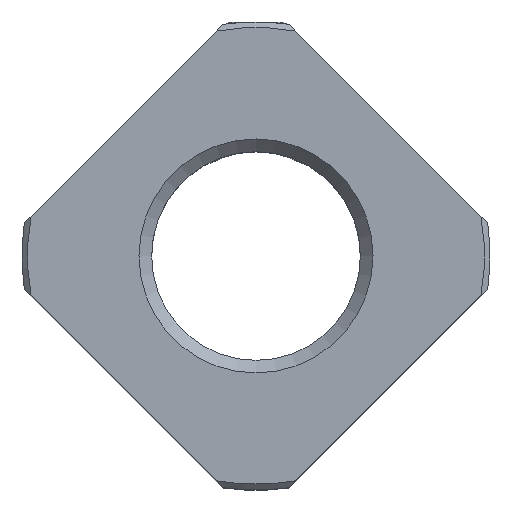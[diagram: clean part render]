
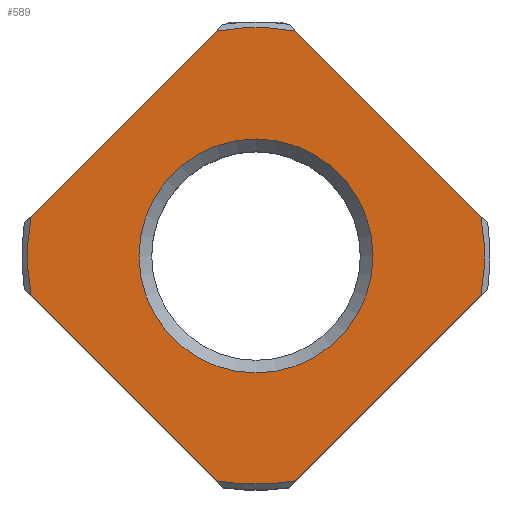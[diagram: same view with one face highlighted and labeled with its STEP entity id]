
A CAD part, top view. The second image highlights one B-rep face of the part: STEP entity #589.
In plain terms, the highlighted planar face has unit normal (0, 0, 1).
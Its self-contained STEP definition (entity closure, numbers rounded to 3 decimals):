
#32=PLANE('',#647);
#52=LINE('',#927,#88);
#53=LINE('',#931,#89);
#54=LINE('',#935,#90);
#55=LINE('',#939,#91);
#88=VECTOR('',#735,1000.);
#89=VECTOR('',#738,1000.);
#90=VECTOR('',#741,1000.);
#91=VECTOR('',#744,1000.);
#159=ORIENTED_EDGE('',*,*,#322,.F.);
#160=ORIENTED_EDGE('',*,*,#323,.T.);
#161=ORIENTED_EDGE('',*,*,#324,.F.);
#162=ORIENTED_EDGE('',*,*,#325,.T.);
#163=ORIENTED_EDGE('',*,*,#326,.F.);
#164=ORIENTED_EDGE('',*,*,#327,.T.);
#165=ORIENTED_EDGE('',*,*,#328,.F.);
#166=ORIENTED_EDGE('',*,*,#329,.T.);
#167=ORIENTED_EDGE('',*,*,#330,.T.);
#322=EDGE_CURVE('',#403,#404,#455,.T.);
#323=EDGE_CURVE('',#403,#405,#52,.T.);
#324=EDGE_CURVE('',#406,#405,#456,.T.);
#325=EDGE_CURVE('',#406,#407,#53,.T.);
#326=EDGE_CURVE('',#408,#407,#457,.T.);
#327=EDGE_CURVE('',#408,#409,#54,.T.);
#328=EDGE_CURVE('',#410,#409,#458,.T.);
#329=EDGE_CURVE('',#410,#404,#55,.T.);
#330=EDGE_CURVE('',#411,#411,#459,.T.);
#403=VERTEX_POINT('',#925);
#404=VERTEX_POINT('',#926);
#405=VERTEX_POINT('',#928);
#406=VERTEX_POINT('',#930);
#407=VERTEX_POINT('',#932);
#408=VERTEX_POINT('',#934);
#409=VERTEX_POINT('',#936);
#410=VERTEX_POINT('',#938);
#411=VERTEX_POINT('',#941);
#455=CIRCLE('',#648,9.76);
#456=CIRCLE('',#649,9.76);
#457=CIRCLE('',#650,9.76);
#458=CIRCLE('',#651,9.76);
#459=CIRCLE('',#652,5.);
#484=EDGE_LOOP('',(#159,#160,#161,#162,#163,#164,#165,#166));
#485=EDGE_LOOP('',(#167));
#534=FACE_BOUND('',#484,.T.);
#535=FACE_BOUND('',#485,.T.);
#589=ADVANCED_FACE('',(#534,#535),#32,.F.);
#647=AXIS2_PLACEMENT_3D('',#923,#731,#732);
#648=AXIS2_PLACEMENT_3D('',#924,#733,#734);
#649=AXIS2_PLACEMENT_3D('',#929,#736,#737);
#650=AXIS2_PLACEMENT_3D('',#933,#739,#740);
#651=AXIS2_PLACEMENT_3D('',#937,#742,#743);
#652=AXIS2_PLACEMENT_3D('',#940,#745,#746);
#731=DIRECTION('',(0.,0.,-1.));
#732=DIRECTION('',(-1.,0.,0.));
#733=DIRECTION('',(0.,0.,-1.));
#734=DIRECTION('',(-1.,0.,0.));
#735=DIRECTION('',(-0.707,-0.707,0.));
#736=DIRECTION('',(0.,0.,-1.));
#737=DIRECTION('',(-1.,0.,0.));
#738=DIRECTION('',(0.707,-0.707,0.));
#739=DIRECTION('',(0.,0.,-1.));
#740=DIRECTION('',(-1.,0.,0.));
#741=DIRECTION('',(0.707,0.707,0.));
#742=DIRECTION('',(0.,0.,-1.));
#743=DIRECTION('',(-1.,0.,0.));
#744=DIRECTION('',(-0.707,0.707,0.));
#745=DIRECTION('',(0.,0.,-1.));
#746=DIRECTION('',(-1.,0.,0.));
#923=CARTESIAN_POINT('',(0.,0.,8.));
#924=CARTESIAN_POINT('',(0.,0.,8.));
#925=CARTESIAN_POINT('',(-1.704,9.61,8.));
#926=CARTESIAN_POINT('',(1.704,9.61,8.));
#927=CARTESIAN_POINT('',(0.,11.314,8.));
#928=CARTESIAN_POINT('',(-9.61,1.704,8.));
#929=CARTESIAN_POINT('',(0.,0.,8.));
#930=CARTESIAN_POINT('',(-9.61,-1.704,8.));
#931=CARTESIAN_POINT('',(-11.314,0.,8.));
#932=CARTESIAN_POINT('',(-1.704,-9.61,8.));
#933=CARTESIAN_POINT('',(0.,0.,8.));
#934=CARTESIAN_POINT('',(1.704,-9.61,8.));
#935=CARTESIAN_POINT('',(0.,-11.314,8.));
#936=CARTESIAN_POINT('',(9.61,-1.704,8.));
#937=CARTESIAN_POINT('',(0.,0.,8.));
#938=CARTESIAN_POINT('',(9.61,1.704,8.));
#939=CARTESIAN_POINT('',(11.314,0.,8.));
#940=CARTESIAN_POINT('',(0.,0.,8.));
#941=CARTESIAN_POINT('',(-5.,0.,8.));
